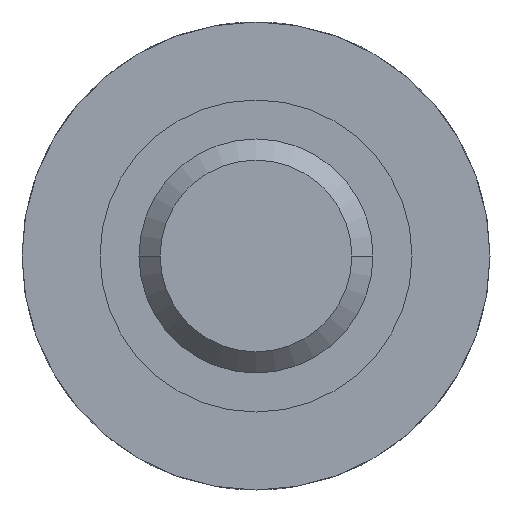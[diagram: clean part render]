
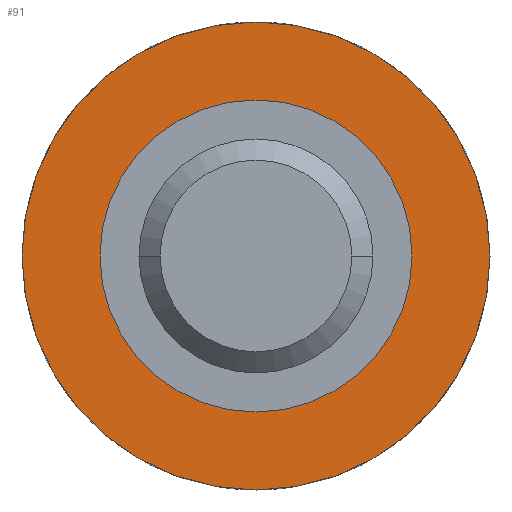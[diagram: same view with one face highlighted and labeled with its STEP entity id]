
A CAD part, front view. The second image highlights one B-rep face of the part: STEP entity #91.
In plain terms, the highlighted planar face has unit normal (0, -1, 0).
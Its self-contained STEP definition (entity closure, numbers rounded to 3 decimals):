
#66=FACE_BOUND('',#149,.F.);
#73=PLANE('',#531);
#91=ADVANCED_FACE('',(#66,#119),#73,.T.);
#119=FACE_OUTER_BOUND('',#150,.F.);
#149=EDGE_LOOP('',(#224,#225));
#150=EDGE_LOOP('',(#226,#227));
#224=ORIENTED_EDGE('',*,*,#367,.T.);
#225=ORIENTED_EDGE('',*,*,#366,.T.);
#226=ORIENTED_EDGE('',*,*,#397,.F.);
#227=ORIENTED_EDGE('',*,*,#394,.F.);
#366=EDGE_CURVE('',#473,#472,#424,.T.);
#367=EDGE_CURVE('',#472,#473,#425,.T.);
#394=EDGE_CURVE('',#451,#450,#440,.T.);
#397=EDGE_CURVE('',#450,#451,#441,.T.);
#424=CIRCLE('',#500,2.);
#425=CIRCLE('',#501,2.);
#440=CIRCLE('',#516,3.);
#441=CIRCLE('',#517,3.);
#450=VERTEX_POINT('',#711);
#451=VERTEX_POINT('',#712);
#472=VERTEX_POINT('',#733);
#473=VERTEX_POINT('',#734);
#500=AXIS2_PLACEMENT_3D('',#755,#578,#579);
#501=AXIS2_PLACEMENT_3D('',#756,#580,#581);
#516=AXIS2_PLACEMENT_3D('',#803,#618,#619);
#517=AXIS2_PLACEMENT_3D('',#806,#622,#623);
#531=AXIS2_PLACEMENT_3D('',#824,#654,#655);
#578=DIRECTION('',(0.,-1.,0.));
#579=DIRECTION('',(1.,0.,0.));
#580=DIRECTION('',(0.,-1.,0.));
#581=DIRECTION('',(-1.,0.,0.));
#618=DIRECTION('',(0.,-1.,0.));
#619=DIRECTION('',(-1.,0.,0.));
#622=DIRECTION('',(0.,-1.,0.));
#623=DIRECTION('',(1.,0.,0.));
#654=DIRECTION('',(0.,-1.,0.));
#655=DIRECTION('',(0.,0.,-1.));
#711=CARTESIAN_POINT('',(13.,0.,0.));
#712=CARTESIAN_POINT('',(7.,0.,0.));
#733=CARTESIAN_POINT('',(8.,0.,0.));
#734=CARTESIAN_POINT('',(12.,0.,0.));
#755=CARTESIAN_POINT('',(10.,0.,0.));
#756=CARTESIAN_POINT('',(10.,0.,0.));
#803=CARTESIAN_POINT('',(10.,0.,0.));
#806=CARTESIAN_POINT('',(10.,0.,0.));
#824=CARTESIAN_POINT('',(6.94,0.,3.06));
